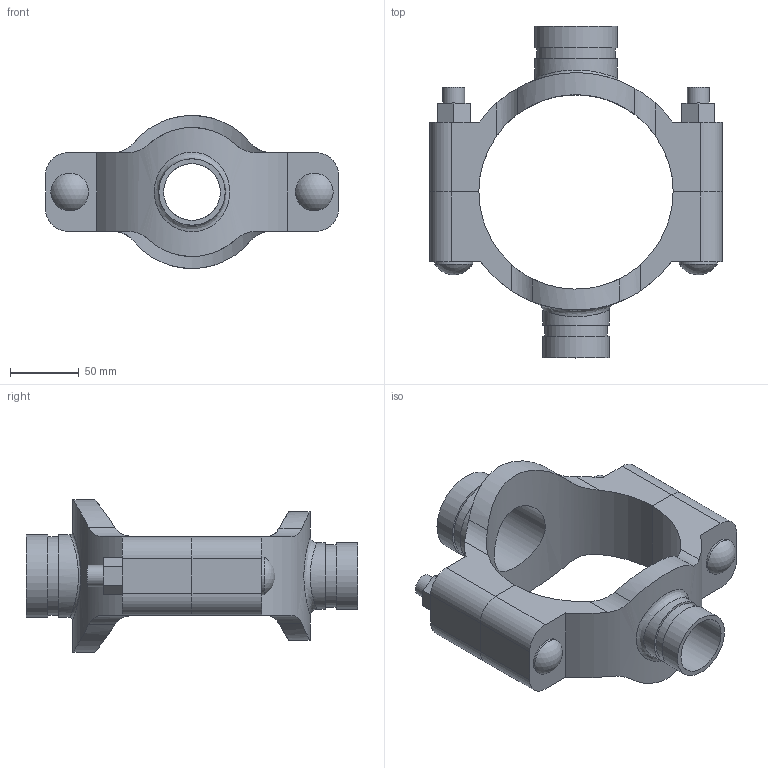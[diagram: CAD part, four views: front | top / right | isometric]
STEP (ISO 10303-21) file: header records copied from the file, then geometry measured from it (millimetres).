
FILE_DESCRIPTION(/* description */ ('VIC MECH-T BRANCH OUTLET CROSS STYLE 920N (GRVD)','CAx-IF Rec.Pracs.---Representation and Presentation of Product Manufacturing Information (PMI)---4.0---2014-10-13'),/* implementation_level */ '2;1');
FILE_NAME(/* name */ 'C:\Users\Vjadhav\AppData\Roaming\Autodesk\ApplicationPlugins\Back Up\Victaulic_IPS_Mechanical-Cross Outlet_Style 920N (OGS)\Victaulic_IPS_Mechanical-Cross Outlet_05.0x02.0x01.5 (125x50x40).stp',/* time_stamp */ '2020-08-06T19:44:15+05:00',/* author */ ('Vjadhav'),/* organization */ ('Victaulic'),/* preprocessor_version */ 'ST-DEVELOPER v17.2',/* originating_system */ 'Autodesk Inventor 2019',/* authorisation */ '');
FILE_SCHEMA (('AP242_MANAGED_MODEL_BASED_3D_ENGINEERING_MIM_LF { 1 0 10303 442 1 1 4 }'));
Length unit declared in the file: inch
Products named in the file (3): 920NG-05.0x02.0x01.5; 920G-05.0x02.0; 920G-05.0x01.5
Assembly tree (2 placements, depth 2):
  920NG-05.0x02.0x01.5
    920G-05.0x02.0
    920G-05.0x01.5
Bounding box: 212.85 x 241.3 x 111.25 mm (x, y, z)
Volume: 789291.5 mm3; surface area: 155727.6 mm2
Topology: 2 solids, 2 shells, 104 faces, 262 edges, 178 vertices
Faces by surface type: plane 54, cylinder 46, sphere 2, bspline 2
Full cylindrical faces by diameter (mm): 15.875 x4, 27.381 x2, 41.275 x1, 45.085 x1, 48.26 x2, 52.387 x1, 57.15 x1, 60.325 x2
Entity records: 4065 total; most frequent: CARTESIAN_POINT 1292, DIRECTION 532, ORIENTED_EDGE 524, EDGE_CURVE 262, AXIS2_PLACEMENT_3D 193, VERTEX_POINT 178, LINE 146, VECTOR 146
